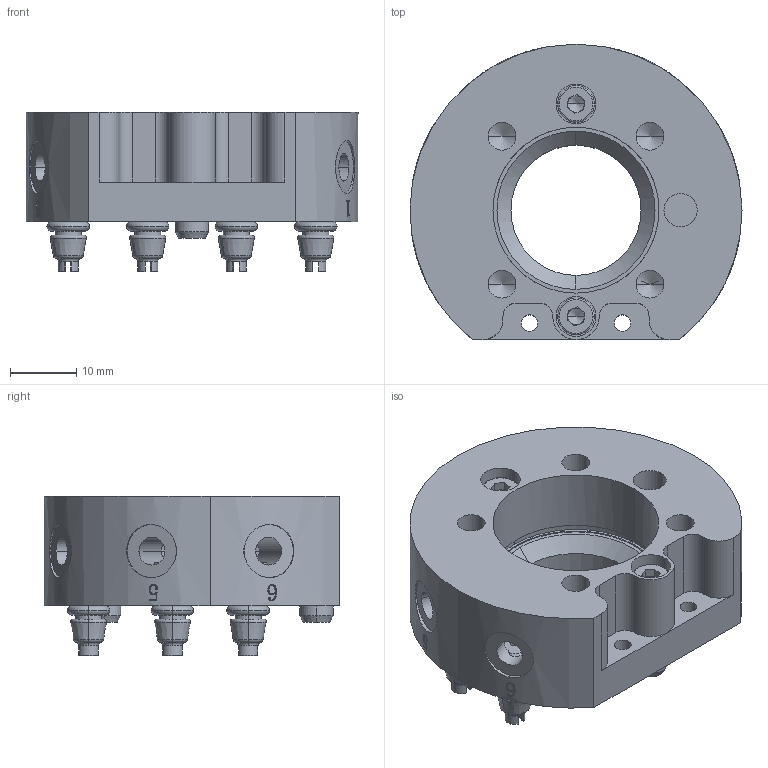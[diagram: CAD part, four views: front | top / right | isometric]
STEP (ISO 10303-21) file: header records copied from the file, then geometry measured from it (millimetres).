
FILE_DESCRIPTION (( 'STEP AP203' ), '1' );
FILE_NAME ('12.STEP', '2024-03-19T07:27:48', ( '微软用户' ), ( '微软中国' ), 'SwSTEP 2.0', 'SolidWorks 2018', '' );
FILE_SCHEMA (( 'CONFIG_CONTROL_DESIGN' ));
Length unit declared in the file: millimetre
Products named in the file (1): 12
Bounding box: 50 x 44.5 x 24 mm (x, y, z)
Volume: 21044 mm3; surface area: 11074.7 mm2
Topology: 14 solids, 14 shells, 568 faces, 1479 edges, 938 vertices
Faces by surface type: cylinder 157, plane 157, torus 92, cone 89, bspline 73
Entity records: 28953 total; most frequent: CARTESIAN_POINT 15540, ORIENTED_EDGE 2902, DIRECTION 2624, EDGE_CURVE 1451, AXIS2_PLACEMENT_3D 1090, VERTEX_POINT 938, EDGE_LOOP 635, CIRCLE 594
